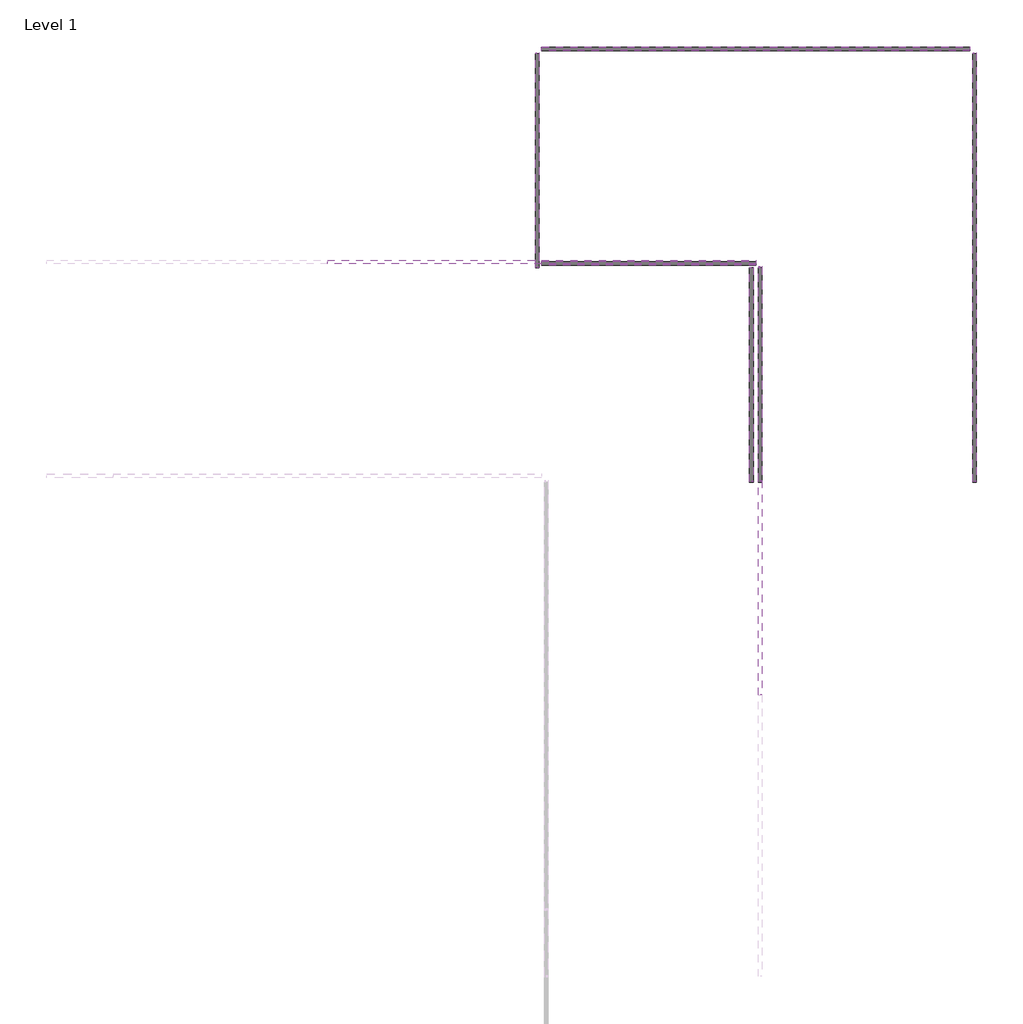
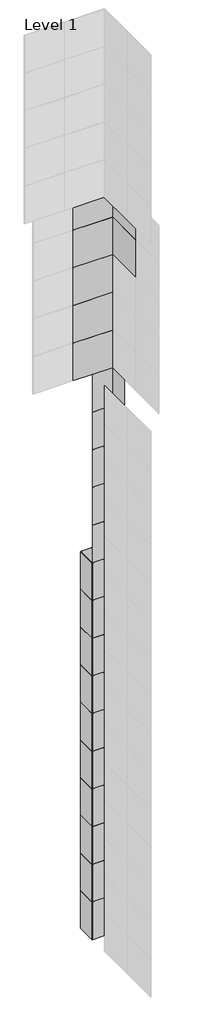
# One storey, part 15 of 15: 137 plates.
"""IFC4 building model written with IfcOpenShell, lengths in millimetres."""

from ifc_helpers import new_model, si_unit, origin, place, context, project, spatial, transform, mapped, element, save
from components import system_panel_glazed_9c75bc08, system_panel_glazed_0a0842ec, system_panel_glazed_aa64d645

model = new_model("IFC4")

# Units and contexts
model_context = context("Model", 3, world=origin())
ifc_project = project(units=[si_unit("LENGTHUNIT", "METRE", prefix="MILLI")], contexts=[model_context])

# Site, building, storey
site = spatial("IfcSite", under=ifc_project)
building = spatial("IfcBuilding", under=site)
storey = spatial("IfcBuildingStorey", under=building, Name="Level 1", Elevation=0.0)

# Plates
placement = place(None, origin())
system_panel_glazed_shape = system_panel_glazed_9c75bc08(model_context)
element("IfcPlate", 1, ObjectType="System Panel : Glazed", at=placement, inside=storey, context=model_context, shape_type="MappedRepresentation", body=[
    mapped(system_panel_glazed_shape, transform((51834.2903978, 9113.0904402, 0.0), x_axis=(0.0, 1.0, 0.0), y_axis=(-1.0, 0.0, 0.0), z_axis=(0.0, 0.0, 1.0))),
])
element("IfcPlate", 2, ObjectType="System Panel : Glazed", at=placement, inside=storey, context=model_context, shape_type="MappedRepresentation", body=[
    mapped(system_panel_glazed_shape, transform((51834.2903978, 9113.0904402, 3048.0), x_axis=(0.0, 1.0, 0.0), y_axis=(-1.0, 0.0, 0.0), z_axis=(0.0, 0.0, 1.0))),
])
element("IfcPlate", 3, ObjectType="System Panel : Glazed", at=placement, inside=storey, context=model_context, shape_type="MappedRepresentation", body=[
    mapped(system_panel_glazed_shape, transform((51834.2903978, 9113.0904402, 6096.0), x_axis=(0.0, 1.0, 0.0), y_axis=(-1.0, 0.0, 0.0), z_axis=(0.0, 0.0, 1.0))),
])
element("IfcPlate", 4, ObjectType="System Panel : Glazed", at=placement, inside=storey, context=model_context, shape_type="MappedRepresentation", body=[
    mapped(system_panel_glazed_shape, transform((51834.2903978, 9113.0904402, 9144.0), x_axis=(0.0, 1.0, 0.0), y_axis=(-1.0, 0.0, 0.0), z_axis=(0.0, 0.0, 1.0))),
])
element("IfcPlate", 5, ObjectType="System Panel : Glazed", at=placement, inside=storey, context=model_context, shape_type="MappedRepresentation", body=[
    mapped(system_panel_glazed_shape, transform((51834.2903978, 9113.0904402, 12192.0), x_axis=(0.0, 1.0, 0.0), y_axis=(-1.0, 0.0, 0.0), z_axis=(0.0, 0.0, 1.0))),
])
element("IfcPlate", 6, ObjectType="System Panel : Glazed", at=placement, inside=storey, context=model_context, shape_type="MappedRepresentation", body=[
    mapped(system_panel_glazed_shape, transform((51834.2903978, 9113.0904402, 15240.0), x_axis=(0.0, 1.0, 0.0), y_axis=(-1.0, 0.0, 0.0), z_axis=(0.0, 0.0, 1.0))),
])
element("IfcPlate", 7, ObjectType="System Panel : Glazed", at=placement, inside=storey, context=model_context, shape_type="MappedRepresentation", body=[
    mapped(system_panel_glazed_shape, transform((51834.2903978, 9113.0904402, 18288.0), x_axis=(0.0, 1.0, 0.0), y_axis=(-1.0, 0.0, 0.0), z_axis=(0.0, 0.0, 1.0))),
])
element("IfcPlate", 8, ObjectType="System Panel : Glazed", at=placement, inside=storey, context=model_context, shape_type="MappedRepresentation", body=[
    mapped(system_panel_glazed_shape, transform((51834.2903978, 9113.0904402, 21336.0), x_axis=(0.0, 1.0, 0.0), y_axis=(-1.0, 0.0, 0.0), z_axis=(0.0, 0.0, 1.0))),
])
element("IfcPlate", 9, ObjectType="System Panel : Glazed", at=placement, inside=storey, context=model_context, shape_type="MappedRepresentation", body=[
    mapped(system_panel_glazed_shape, transform((51834.2903978, 9113.0904402, 24384.0), x_axis=(0.0, 1.0, 0.0), y_axis=(-1.0, 0.0, 0.0), z_axis=(0.0, 0.0, 1.0))),
])
element("IfcPlate", 10, ObjectType="System Panel : Glazed", at=placement, inside=storey, context=model_context, shape_type="MappedRepresentation", body=[
    mapped(system_panel_glazed_shape, transform((51834.2903978, 9113.0904402, 27432.0), x_axis=(0.0, 1.0, 0.0), y_axis=(-1.0, 0.0, 0.0), z_axis=(0.0, 0.0, 1.0))),
])
element("IfcPlate", 11, ObjectType="System Panel : Glazed", at=placement, inside=storey, context=model_context, shape_type="MappedRepresentation", body=[
    mapped(system_panel_glazed_shape, transform((51834.2903978, 9113.0904402, 30480.0), x_axis=(0.0, 1.0, 0.0), y_axis=(-1.0, 0.0, 0.0), z_axis=(0.0, 0.0, 1.0))),
])
element("IfcPlate", 12, ObjectType="System Panel : Glazed", at=placement, inside=storey, context=model_context, shape_type="MappedRepresentation", body=[
    mapped(system_panel_glazed_shape, transform((51834.2903978, 9113.0904402, 33528.0), x_axis=(0.0, 1.0, 0.0), y_axis=(-1.0, 0.0, 0.0), z_axis=(0.0, 0.0, 1.0))),
])
element("IfcPlate", 13, ObjectType="System Panel : Glazed", at=placement, inside=storey, context=model_context, shape_type="MappedRepresentation", body=[
    mapped(system_panel_glazed_shape, transform((51834.2903978, 9113.0904402, 36576.0), x_axis=(0.0, 1.0, 0.0), y_axis=(-1.0, 0.0, 0.0), z_axis=(0.0, 0.0, 1.0))),
])
element("IfcPlate", 14, ObjectType="System Panel : Glazed", at=placement, inside=storey, context=model_context, shape_type="MappedRepresentation", body=[
    mapped(system_panel_glazed_shape, transform((51834.2903978, 9113.0904402, 39624.0), x_axis=(0.0, 1.0, 0.0), y_axis=(-1.0, 0.0, 0.0), z_axis=(0.0, 0.0, 1.0))),
])
element("IfcPlate", 15, ObjectType="System Panel : Glazed", at=placement, inside=storey, context=model_context, shape_type="MappedRepresentation", body=[
    mapped(system_panel_glazed_shape, transform((51834.2903978, 9113.0904402, 42672.0), x_axis=(0.0, 1.0, 0.0), y_axis=(-1.0, 0.0, 0.0), z_axis=(0.0, 0.0, 1.0))),
])
element("IfcPlate", 16, ObjectType="System Panel : Glazed", at=placement, inside=storey, context=model_context, shape_type="MappedRepresentation", body=[
    mapped(system_panel_glazed_shape, transform((51072.2903978, 9875.0904402, 0.0), x_axis=(-1.0, 0.0, 0.0), y_axis=(0.0, -1.0, 0.0), z_axis=(0.0, 0.0, 1.0))),
])
element("IfcPlate", 17, ObjectType="System Panel : Glazed", at=placement, inside=storey, context=model_context, shape_type="MappedRepresentation", body=[
    mapped(system_panel_glazed_shape, transform((51072.2903978, 9875.0904402, 3048.0), x_axis=(-1.0, 0.0, 0.0), y_axis=(0.0, -1.0, 0.0), z_axis=(0.0, 0.0, 1.0))),
])
element("IfcPlate", 18, ObjectType="System Panel : Glazed", at=placement, inside=storey, context=model_context, shape_type="MappedRepresentation", body=[
    mapped(system_panel_glazed_shape, transform((51072.2903978, 9875.0904402, 6096.0), x_axis=(-1.0, 0.0, 0.0), y_axis=(0.0, -1.0, 0.0), z_axis=(0.0, 0.0, 1.0))),
])
element("IfcPlate", 19, ObjectType="System Panel : Glazed", at=placement, inside=storey, context=model_context, shape_type="MappedRepresentation", body=[
    mapped(system_panel_glazed_shape, transform((51072.2903978, 9875.0904402, 9144.0), x_axis=(-1.0, 0.0, 0.0), y_axis=(0.0, -1.0, 0.0), z_axis=(0.0, 0.0, 1.0))),
])
element("IfcPlate", 20, ObjectType="System Panel : Glazed", at=placement, inside=storey, context=model_context, shape_type="MappedRepresentation", body=[
    mapped(system_panel_glazed_shape, transform((51072.2903978, 9875.0904402, 12192.0), x_axis=(-1.0, 0.0, 0.0), y_axis=(0.0, -1.0, 0.0), z_axis=(0.0, 0.0, 1.0))),
])
element("IfcPlate", 21, ObjectType="System Panel : Glazed", at=placement, inside=storey, context=model_context, shape_type="MappedRepresentation", body=[
    mapped(system_panel_glazed_shape, transform((51072.2903978, 9875.0904402, 15240.0), x_axis=(-1.0, 0.0, 0.0), y_axis=(0.0, -1.0, 0.0), z_axis=(0.0, 0.0, 1.0))),
])
element("IfcPlate", 22, ObjectType="System Panel : Glazed", at=placement, inside=storey, context=model_context, shape_type="MappedRepresentation", body=[
    mapped(system_panel_glazed_shape, transform((51072.2903978, 9875.0904402, 18288.0), x_axis=(-1.0, 0.0, 0.0), y_axis=(0.0, -1.0, 0.0), z_axis=(0.0, 0.0, 1.0))),
])
element("IfcPlate", 23, ObjectType="System Panel : Glazed", at=placement, inside=storey, context=model_context, shape_type="MappedRepresentation", body=[
    mapped(system_panel_glazed_shape, transform((51072.2903978, 9875.0904402, 21336.0), x_axis=(-1.0, 0.0, 0.0), y_axis=(0.0, -1.0, 0.0), z_axis=(0.0, 0.0, 1.0))),
])
element("IfcPlate", 24, ObjectType="System Panel : Glazed", at=placement, inside=storey, context=model_context, shape_type="MappedRepresentation", body=[
    mapped(system_panel_glazed_shape, transform((51072.2903978, 9875.0904402, 24384.0), x_axis=(-1.0, 0.0, 0.0), y_axis=(0.0, -1.0, 0.0), z_axis=(0.0, 0.0, 1.0))),
])
element("IfcPlate", 25, ObjectType="System Panel : Glazed", at=placement, inside=storey, context=model_context, shape_type="MappedRepresentation", body=[
    mapped(system_panel_glazed_shape, transform((51072.2903978, 9875.0904402, 27432.0), x_axis=(-1.0, 0.0, 0.0), y_axis=(0.0, -1.0, 0.0), z_axis=(0.0, 0.0, 1.0))),
])
element("IfcPlate", 26, ObjectType="System Panel : Glazed", at=placement, inside=storey, context=model_context, shape_type="MappedRepresentation", body=[
    mapped(system_panel_glazed_shape, transform((51072.2903978, 9875.0904402, 30480.0), x_axis=(-1.0, 0.0, 0.0), y_axis=(0.0, -1.0, 0.0), z_axis=(0.0, 0.0, 1.0))),
])
element("IfcPlate", 27, ObjectType="System Panel : Glazed", at=placement, inside=storey, context=model_context, shape_type="MappedRepresentation", body=[
    mapped(system_panel_glazed_shape, transform((51072.2903978, 9875.0904402, 33528.0), x_axis=(-1.0, 0.0, 0.0), y_axis=(0.0, -1.0, 0.0), z_axis=(0.0, 0.0, 1.0))),
])
element("IfcPlate", 28, ObjectType="System Panel : Glazed", at=placement, inside=storey, context=model_context, shape_type="MappedRepresentation", body=[
    mapped(system_panel_glazed_shape, transform((51072.2903978, 9875.0904402, 36576.0), x_axis=(-1.0, 0.0, 0.0), y_axis=(0.0, -1.0, 0.0), z_axis=(0.0, 0.0, 1.0))),
])
element("IfcPlate", 29, ObjectType="System Panel : Glazed", at=placement, inside=storey, context=model_context, shape_type="MappedRepresentation", body=[
    mapped(system_panel_glazed_shape, transform((51072.2903978, 9875.0904402, 39624.0), x_axis=(-1.0, 0.0, 0.0), y_axis=(0.0, -1.0, 0.0), z_axis=(0.0, 0.0, 1.0))),
])
element("IfcPlate", 30, ObjectType="System Panel : Glazed", at=placement, inside=storey, context=model_context, shape_type="MappedRepresentation", body=[
    mapped(system_panel_glazed_shape, transform((51072.2903978, 9875.0904402, 42672.0), x_axis=(-1.0, 0.0, 0.0), y_axis=(0.0, -1.0, 0.0), z_axis=(0.0, 0.0, 1.0))),
])
element("IfcPlate", 31, ObjectType="System Panel : Glazed", at=placement, inside=storey, context=model_context, shape_type="MappedRepresentation", body=[
    mapped(system_panel_glazed_shape, transform((51072.2903978, 9875.0904402, 0.0), x_axis=(-1.0, 0.0, 0.0), y_axis=(0.0, -1.0, 0.0), z_axis=(0.0, 0.0, 1.0))),
])
element("IfcPlate", 32, ObjectType="System Panel : Glazed", at=placement, inside=storey, context=model_context, shape_type="MappedRepresentation", body=[
    mapped(system_panel_glazed_shape, transform((51072.2903978, 9875.0904402, 3048.0), x_axis=(-1.0, 0.0, 0.0), y_axis=(0.0, -1.0, 0.0), z_axis=(0.0, 0.0, 1.0))),
])
element("IfcPlate", 33, ObjectType="System Panel : Glazed", at=placement, inside=storey, context=model_context, shape_type="MappedRepresentation", body=[
    mapped(system_panel_glazed_shape, transform((51072.2903978, 9875.0904402, 6096.0), x_axis=(-1.0, 0.0, 0.0), y_axis=(0.0, -1.0, 0.0), z_axis=(0.0, 0.0, 1.0))),
])
element("IfcPlate", 34, ObjectType="System Panel : Glazed", at=placement, inside=storey, context=model_context, shape_type="MappedRepresentation", body=[
    mapped(system_panel_glazed_shape, transform((51072.2903978, 9875.0904402, 9144.0), x_axis=(-1.0, 0.0, 0.0), y_axis=(0.0, -1.0, 0.0), z_axis=(0.0, 0.0, 1.0))),
])
element("IfcPlate", 35, ObjectType="System Panel : Glazed", at=placement, inside=storey, context=model_context, shape_type="MappedRepresentation", body=[
    mapped(system_panel_glazed_shape, transform((51072.2903978, 9875.0904402, 12192.0), x_axis=(-1.0, 0.0, 0.0), y_axis=(0.0, -1.0, 0.0), z_axis=(0.0, 0.0, 1.0))),
])
element("IfcPlate", 36, ObjectType="System Panel : Glazed", at=placement, inside=storey, context=model_context, shape_type="MappedRepresentation", body=[
    mapped(system_panel_glazed_shape, transform((51072.2903978, 9875.0904402, 15240.0), x_axis=(-1.0, 0.0, 0.0), y_axis=(0.0, -1.0, 0.0), z_axis=(0.0, 0.0, 1.0))),
])
element("IfcPlate", 37, ObjectType="System Panel : Glazed", at=placement, inside=storey, context=model_context, shape_type="MappedRepresentation", body=[
    mapped(system_panel_glazed_shape, transform((51072.2903978, 9875.0904402, 18288.0), x_axis=(-1.0, 0.0, 0.0), y_axis=(0.0, -1.0, 0.0), z_axis=(0.0, 0.0, 1.0))),
])
element("IfcPlate", 38, ObjectType="System Panel : Glazed", at=placement, inside=storey, context=model_context, shape_type="MappedRepresentation", body=[
    mapped(system_panel_glazed_shape, transform((51072.2903978, 9875.0904402, 21336.0), x_axis=(-1.0, 0.0, 0.0), y_axis=(0.0, -1.0, 0.0), z_axis=(0.0, 0.0, 1.0))),
])
element("IfcPlate", 39, ObjectType="System Panel : Glazed", at=placement, inside=storey, context=model_context, shape_type="MappedRepresentation", body=[
    mapped(system_panel_glazed_shape, transform((51072.2903978, 9875.0904402, 24384.0), x_axis=(-1.0, 0.0, 0.0), y_axis=(0.0, -1.0, 0.0), z_axis=(0.0, 0.0, 1.0))),
])
element("IfcPlate", 40, ObjectType="System Panel : Glazed", at=placement, inside=storey, context=model_context, shape_type="MappedRepresentation", body=[
    mapped(system_panel_glazed_shape, transform((51072.2903978, 9875.0904402, 27432.0), x_axis=(-1.0, 0.0, 0.0), y_axis=(0.0, -1.0, 0.0), z_axis=(0.0, 0.0, 1.0))),
])
element("IfcPlate", 41, ObjectType="System Panel : Glazed", at=placement, inside=storey, context=model_context, shape_type="MappedRepresentation", body=[
    mapped(system_panel_glazed_shape, transform((51072.2903978, 9875.0904402, 30480.0), x_axis=(-1.0, 0.0, 0.0), y_axis=(0.0, -1.0, 0.0), z_axis=(0.0, 0.0, 1.0))),
])
element("IfcPlate", 42, ObjectType="System Panel : Glazed", at=placement, inside=storey, context=model_context, shape_type="MappedRepresentation", body=[
    mapped(system_panel_glazed_shape, transform((51072.2903978, 9875.0904402, 33528.0), x_axis=(-1.0, 0.0, 0.0), y_axis=(0.0, -1.0, 0.0), z_axis=(0.0, 0.0, 1.0))),
])
element("IfcPlate", 43, ObjectType="System Panel : Glazed", at=placement, inside=storey, context=model_context, shape_type="MappedRepresentation", body=[
    mapped(system_panel_glazed_shape, transform((51072.2903978, 9875.0904402, 36576.0), x_axis=(-1.0, 0.0, 0.0), y_axis=(0.0, -1.0, 0.0), z_axis=(0.0, 0.0, 1.0))),
])
element("IfcPlate", 44, ObjectType="System Panel : Glazed", at=placement, inside=storey, context=model_context, shape_type="MappedRepresentation", body=[
    mapped(system_panel_glazed_shape, transform((51072.2903978, 9875.0904402, 39624.0), x_axis=(-1.0, 0.0, 0.0), y_axis=(0.0, -1.0, 0.0), z_axis=(0.0, 0.0, 1.0))),
])
element("IfcPlate", 45, ObjectType="System Panel : Glazed", at=placement, inside=storey, context=model_context, shape_type="MappedRepresentation", body=[
    mapped(system_panel_glazed_shape, transform((51072.2903978, 9875.0904402, 42672.0), x_axis=(-1.0, 0.0, 0.0), y_axis=(0.0, -1.0, 0.0), z_axis=(0.0, 0.0, 1.0))),
])
element("IfcPlate", 46, ObjectType="System Panel : Glazed", at=placement, inside=storey, context=model_context, shape_type="MappedRepresentation", body=[
    mapped(system_panel_glazed_shape, transform((51072.2903978, 9875.0904402, 0.0), x_axis=(-1.0, 0.0, 0.0), y_axis=(0.0, -1.0, 0.0), z_axis=(0.0, 0.0, 1.0))),
])
element("IfcPlate", 47, ObjectType="System Panel : Glazed", at=placement, inside=storey, context=model_context, shape_type="MappedRepresentation", body=[
    mapped(system_panel_glazed_shape, transform((51072.2903978, 9875.0904402, 3048.0), x_axis=(-1.0, 0.0, 0.0), y_axis=(0.0, -1.0, 0.0), z_axis=(0.0, 0.0, 1.0))),
])
element("IfcPlate", 48, ObjectType="System Panel : Glazed", at=placement, inside=storey, context=model_context, shape_type="MappedRepresentation", body=[
    mapped(system_panel_glazed_shape, transform((51072.2903978, 9875.0904402, 6096.0), x_axis=(-1.0, 0.0, 0.0), y_axis=(0.0, -1.0, 0.0), z_axis=(0.0, 0.0, 1.0))),
])
element("IfcPlate", 49, ObjectType="System Panel : Glazed", at=placement, inside=storey, context=model_context, shape_type="MappedRepresentation", body=[
    mapped(system_panel_glazed_shape, transform((51072.2903978, 9875.0904402, 9144.0), x_axis=(-1.0, 0.0, 0.0), y_axis=(0.0, -1.0, 0.0), z_axis=(0.0, 0.0, 1.0))),
])
element("IfcPlate", 50, ObjectType="System Panel : Glazed", at=placement, inside=storey, context=model_context, shape_type="MappedRepresentation", body=[
    mapped(system_panel_glazed_shape, transform((51072.2903978, 9875.0904402, 12192.0), x_axis=(-1.0, 0.0, 0.0), y_axis=(0.0, -1.0, 0.0), z_axis=(0.0, 0.0, 1.0))),
])
element("IfcPlate", 51, ObjectType="System Panel : Glazed", at=placement, inside=storey, context=model_context, shape_type="MappedRepresentation", body=[
    mapped(system_panel_glazed_shape, transform((51072.2903978, 9875.0904402, 15240.0), x_axis=(-1.0, 0.0, 0.0), y_axis=(0.0, -1.0, 0.0), z_axis=(0.0, 0.0, 1.0))),
])
element("IfcPlate", 52, ObjectType="System Panel : Glazed", at=placement, inside=storey, context=model_context, shape_type="MappedRepresentation", body=[
    mapped(system_panel_glazed_shape, transform((51072.2903978, 9875.0904402, 18288.0), x_axis=(-1.0, 0.0, 0.0), y_axis=(0.0, -1.0, 0.0), z_axis=(0.0, 0.0, 1.0))),
])
element("IfcPlate", 53, ObjectType="System Panel : Glazed", at=placement, inside=storey, context=model_context, shape_type="MappedRepresentation", body=[
    mapped(system_panel_glazed_shape, transform((51072.2903978, 9875.0904402, 21336.0), x_axis=(-1.0, 0.0, 0.0), y_axis=(0.0, -1.0, 0.0), z_axis=(0.0, 0.0, 1.0))),
])
element("IfcPlate", 54, ObjectType="System Panel : Glazed", at=placement, inside=storey, context=model_context, shape_type="MappedRepresentation", body=[
    mapped(system_panel_glazed_shape, transform((51072.2903978, 9875.0904402, 24384.0), x_axis=(-1.0, 0.0, 0.0), y_axis=(0.0, -1.0, 0.0), z_axis=(0.0, 0.0, 1.0))),
])
element("IfcPlate", 55, ObjectType="System Panel : Glazed", at=placement, inside=storey, context=model_context, shape_type="MappedRepresentation", body=[
    mapped(system_panel_glazed_shape, transform((51072.2903978, 9875.0904402, 27432.0), x_axis=(-1.0, 0.0, 0.0), y_axis=(0.0, -1.0, 0.0), z_axis=(0.0, 0.0, 1.0))),
])
element("IfcPlate", 56, ObjectType="System Panel : Glazed", at=placement, inside=storey, context=model_context, shape_type="MappedRepresentation", body=[
    mapped(system_panel_glazed_shape, transform((51072.2903978, 9875.0904402, 30480.0), x_axis=(-1.0, 0.0, 0.0), y_axis=(0.0, -1.0, 0.0), z_axis=(0.0, 0.0, 1.0))),
])
element("IfcPlate", 57, ObjectType="System Panel : Glazed", at=placement, inside=storey, context=model_context, shape_type="MappedRepresentation", body=[
    mapped(system_panel_glazed_shape, transform((51072.2903978, 9875.0904402, 33528.0), x_axis=(-1.0, 0.0, 0.0), y_axis=(0.0, -1.0, 0.0), z_axis=(0.0, 0.0, 1.0))),
])
element("IfcPlate", 58, ObjectType="System Panel : Glazed", at=placement, inside=storey, context=model_context, shape_type="MappedRepresentation", body=[
    mapped(system_panel_glazed_shape, transform((51072.2903978, 9875.0904402, 36576.0), x_axis=(-1.0, 0.0, 0.0), y_axis=(0.0, -1.0, 0.0), z_axis=(0.0, 0.0, 1.0))),
])
element("IfcPlate", 59, ObjectType="System Panel : Glazed", at=placement, inside=storey, context=model_context, shape_type="MappedRepresentation", body=[
    mapped(system_panel_glazed_shape, transform((51072.2903978, 9875.0904402, 39624.0), x_axis=(-1.0, 0.0, 0.0), y_axis=(0.0, -1.0, 0.0), z_axis=(0.0, 0.0, 1.0))),
])
element("IfcPlate", 60, ObjectType="System Panel : Glazed", at=placement, inside=storey, context=model_context, shape_type="MappedRepresentation", body=[
    mapped(system_panel_glazed_shape, transform((51072.2903978, 9875.0904402, 42672.0), x_axis=(-1.0, 0.0, 0.0), y_axis=(0.0, -1.0, 0.0), z_axis=(0.0, 0.0, 1.0))),
])
element("IfcPlate", 61, ObjectType="System Panel : Glazed", at=placement, inside=storey, context=model_context, shape_type="MappedRepresentation", body=[
    mapped(system_panel_glazed_shape, transform((51834.2903978, 9113.0904402, 0.0), x_axis=(0.0, -1.0, 0.0), y_axis=(1.0, 0.0, 0.0), z_axis=(0.0, 0.0, 1.0))),
])
element("IfcPlate", 62, ObjectType="System Panel : Glazed", at=placement, inside=storey, context=model_context, shape_type="MappedRepresentation", body=[
    mapped(system_panel_glazed_shape, transform((51834.2903978, 9113.0904402, 3048.0), x_axis=(0.0, -1.0, 0.0), y_axis=(1.0, 0.0, 0.0), z_axis=(0.0, 0.0, 1.0))),
])
element("IfcPlate", 63, ObjectType="System Panel : Glazed", at=placement, inside=storey, context=model_context, shape_type="MappedRepresentation", body=[
    mapped(system_panel_glazed_shape, transform((51834.2903978, 9113.0904402, 6096.0), x_axis=(0.0, -1.0, 0.0), y_axis=(1.0, 0.0, 0.0), z_axis=(0.0, 0.0, 1.0))),
])
element("IfcPlate", 64, ObjectType="System Panel : Glazed", at=placement, inside=storey, context=model_context, shape_type="MappedRepresentation", body=[
    mapped(system_panel_glazed_shape, transform((51834.2903978, 9113.0904402, 9144.0), x_axis=(0.0, -1.0, 0.0), y_axis=(1.0, 0.0, 0.0), z_axis=(0.0, 0.0, 1.0))),
])
element("IfcPlate", 65, ObjectType="System Panel : Glazed", at=placement, inside=storey, context=model_context, shape_type="MappedRepresentation", body=[
    mapped(system_panel_glazed_shape, transform((51834.2903978, 9113.0904402, 12192.0), x_axis=(0.0, -1.0, 0.0), y_axis=(1.0, 0.0, 0.0), z_axis=(0.0, 0.0, 1.0))),
])
element("IfcPlate", 66, ObjectType="System Panel : Glazed", at=placement, inside=storey, context=model_context, shape_type="MappedRepresentation", body=[
    mapped(system_panel_glazed_shape, transform((51834.2903978, 9113.0904402, 15240.0), x_axis=(0.0, -1.0, 0.0), y_axis=(1.0, 0.0, 0.0), z_axis=(0.0, 0.0, 1.0))),
])
element("IfcPlate", 67, ObjectType="System Panel : Glazed", at=placement, inside=storey, context=model_context, shape_type="MappedRepresentation", body=[
    mapped(system_panel_glazed_shape, transform((51834.2903978, 9113.0904402, 18288.0), x_axis=(0.0, -1.0, 0.0), y_axis=(1.0, 0.0, 0.0), z_axis=(0.0, 0.0, 1.0))),
])
element("IfcPlate", 68, ObjectType="System Panel : Glazed", at=placement, inside=storey, context=model_context, shape_type="MappedRepresentation", body=[
    mapped(system_panel_glazed_shape, transform((51834.2903978, 9113.0904402, 21336.0), x_axis=(0.0, -1.0, 0.0), y_axis=(1.0, 0.0, 0.0), z_axis=(0.0, 0.0, 1.0))),
])
element("IfcPlate", 69, ObjectType="System Panel : Glazed", at=placement, inside=storey, context=model_context, shape_type="MappedRepresentation", body=[
    mapped(system_panel_glazed_shape, transform((51834.2903978, 9113.0904402, 24384.0), x_axis=(0.0, -1.0, 0.0), y_axis=(1.0, 0.0, 0.0), z_axis=(0.0, 0.0, 1.0))),
])
element("IfcPlate", 70, ObjectType="System Panel : Glazed", at=placement, inside=storey, context=model_context, shape_type="MappedRepresentation", body=[
    mapped(system_panel_glazed_shape, transform((51834.2903978, 9113.0904402, 27432.0), x_axis=(0.0, -1.0, 0.0), y_axis=(1.0, 0.0, 0.0), z_axis=(0.0, 0.0, 1.0))),
])
element("IfcPlate", 71, ObjectType="System Panel : Glazed", at=placement, inside=storey, context=model_context, shape_type="MappedRepresentation", body=[
    mapped(system_panel_glazed_shape, transform((50310.2903978, 10637.0904402, 0.0), x_axis=(0.0, -1.0, 0.0), y_axis=(1.0, 0.0, 0.0), z_axis=(0.0, 0.0, 1.0))),
])
element("IfcPlate", 72, ObjectType="System Panel : Glazed", at=placement, inside=storey, context=model_context, shape_type="MappedRepresentation", body=[
    mapped(system_panel_glazed_shape, transform((50310.2903978, 10637.0904402, 3048.0), x_axis=(0.0, -1.0, 0.0), y_axis=(1.0, 0.0, 0.0), z_axis=(0.0, 0.0, 1.0))),
])
element("IfcPlate", 73, ObjectType="System Panel : Glazed", at=placement, inside=storey, context=model_context, shape_type="MappedRepresentation", body=[
    mapped(system_panel_glazed_shape, transform((50310.2903978, 10637.0904402, 6096.0), x_axis=(0.0, -1.0, 0.0), y_axis=(1.0, 0.0, 0.0), z_axis=(0.0, 0.0, 1.0))),
])
element("IfcPlate", 74, ObjectType="System Panel : Glazed", at=placement, inside=storey, context=model_context, shape_type="MappedRepresentation", body=[
    mapped(system_panel_glazed_shape, transform((50310.2903978, 10637.0904402, 9144.0), x_axis=(0.0, -1.0, 0.0), y_axis=(1.0, 0.0, 0.0), z_axis=(0.0, 0.0, 1.0))),
])
element("IfcPlate", 75, ObjectType="System Panel : Glazed", at=placement, inside=storey, context=model_context, shape_type="MappedRepresentation", body=[
    mapped(system_panel_glazed_shape, transform((50310.2903978, 10637.0904402, 12192.0), x_axis=(0.0, -1.0, 0.0), y_axis=(1.0, 0.0, 0.0), z_axis=(0.0, 0.0, 1.0))),
])
element("IfcPlate", 76, ObjectType="System Panel : Glazed", at=placement, inside=storey, context=model_context, shape_type="MappedRepresentation", body=[
    mapped(system_panel_glazed_shape, transform((50310.2903978, 10637.0904402, 15240.0), x_axis=(0.0, -1.0, 0.0), y_axis=(1.0, 0.0, 0.0), z_axis=(0.0, 0.0, 1.0))),
])
element("IfcPlate", 77, ObjectType="System Panel : Glazed", at=placement, inside=storey, context=model_context, shape_type="MappedRepresentation", body=[
    mapped(system_panel_glazed_shape, transform((50310.2903978, 10637.0904402, 18288.0), x_axis=(0.0, -1.0, 0.0), y_axis=(1.0, 0.0, 0.0), z_axis=(0.0, 0.0, 1.0))),
])
element("IfcPlate", 78, ObjectType="System Panel : Glazed", at=placement, inside=storey, context=model_context, shape_type="MappedRepresentation", body=[
    mapped(system_panel_glazed_shape, transform((50310.2903978, 10637.0904402, 21336.0), x_axis=(0.0, -1.0, 0.0), y_axis=(1.0, 0.0, 0.0), z_axis=(0.0, 0.0, 1.0))),
])
element("IfcPlate", 79, ObjectType="System Panel : Glazed", at=placement, inside=storey, context=model_context, shape_type="MappedRepresentation", body=[
    mapped(system_panel_glazed_shape, transform((50310.2903978, 10637.0904402, 24384.0), x_axis=(0.0, -1.0, 0.0), y_axis=(1.0, 0.0, 0.0), z_axis=(0.0, 0.0, 1.0))),
])
element("IfcPlate", 80, ObjectType="System Panel : Glazed", at=placement, inside=storey, context=model_context, shape_type="MappedRepresentation", body=[
    mapped(system_panel_glazed_shape, transform((50310.2903978, 10637.0904402, 27432.0), x_axis=(0.0, -1.0, 0.0), y_axis=(1.0, 0.0, 0.0), z_axis=(0.0, 0.0, 1.0))),
])
system_panel_glazed_2_shape = system_panel_glazed_0a0842ec(model_context)
element("IfcPlate", 81, ObjectType="System Panel : Glazed", at=placement, inside=storey, context=model_context, shape_type="MappedRepresentation", body=[
    mapped(system_panel_glazed_2_shape, transform((50310.2903978, 9875.0904402, 45720.0), x_axis=(-1.0, 0.0, 0.0), y_axis=(0.0, -1.0, 0.0), z_axis=(0.0, 0.0, 1.0))),
])
element("IfcPlate", 82, ObjectType="System Panel : Glazed", at=placement, inside=storey, context=model_context, shape_type="MappedRepresentation", body=[
    mapped(system_panel_glazed_2_shape, transform((50310.2903978, 9875.0904402, 45720.0), x_axis=(-1.0, 0.0, 0.0), y_axis=(0.0, -1.0, 0.0), z_axis=(0.0, 0.0, 1.0))),
])
element("IfcPlate", 83, ObjectType="System Panel : Glazed", at=placement, inside=storey, context=model_context, shape_type="MappedRepresentation", body=[
    mapped(system_panel_glazed_2_shape, transform((50310.2903978, 9875.0904402, 45720.0), x_axis=(-1.0, 0.0, 0.0), y_axis=(0.0, -1.0, 0.0), z_axis=(0.0, 0.0, 1.0))),
])
system_panel_glazed_3_shape = system_panel_glazed_aa64d645(model_context)
element("IfcPlate", 84, ObjectType="System Panel : Glazed", at=placement, inside=storey, context=model_context, shape_type="MappedRepresentation", body=[
    mapped(system_panel_glazed_3_shape, transform((51834.2903978, 8351.0904402, 54864.0), x_axis=(0.0, 1.0, 0.0), y_axis=(-1.0, 0.0, 0.0), z_axis=(0.0, 0.0, 1.0))),
])
element("IfcPlate", 85, ObjectType="System Panel : Glazed", at=placement, inside=storey, context=model_context, shape_type="MappedRepresentation", body=[
    mapped(system_panel_glazed_3_shape, transform((51834.2903978, 8351.0904402, 57912.0), x_axis=(0.0, 1.0, 0.0), y_axis=(-1.0, 0.0, 0.0), z_axis=(0.0, 0.0, 1.0))),
])
element("IfcPlate", 86, ObjectType="System Panel : Glazed", at=placement, inside=storey, context=model_context, shape_type="MappedRepresentation", body=[
    mapped(system_panel_glazed_3_shape, transform((50310.2903978, 9875.0904402, 48768.0), x_axis=(-1.0, 0.0, 0.0), y_axis=(0.0, -1.0, 0.0), z_axis=(0.0, 0.0, 1.0))),
])
element("IfcPlate", 87, ObjectType="System Panel : Glazed", at=placement, inside=storey, context=model_context, shape_type="MappedRepresentation", body=[
    mapped(system_panel_glazed_3_shape, transform((50310.2903978, 9875.0904402, 51816.0), x_axis=(-1.0, 0.0, 0.0), y_axis=(0.0, -1.0, 0.0), z_axis=(0.0, 0.0, 1.0))),
])
element("IfcPlate", 88, ObjectType="System Panel : Glazed", at=placement, inside=storey, context=model_context, shape_type="MappedRepresentation", body=[
    mapped(system_panel_glazed_3_shape, transform((50310.2903978, 9875.0904402, 54864.0), x_axis=(-1.0, 0.0, 0.0), y_axis=(0.0, -1.0, 0.0), z_axis=(0.0, 0.0, 1.0))),
])
element("IfcPlate", 89, ObjectType="System Panel : Glazed", at=placement, inside=storey, context=model_context, shape_type="MappedRepresentation", body=[
    mapped(system_panel_glazed_3_shape, transform((50310.2903978, 9875.0904402, 57912.0), x_axis=(-1.0, 0.0, 0.0), y_axis=(0.0, -1.0, 0.0), z_axis=(0.0, 0.0, 1.0))),
])
element("IfcPlate", 90, ObjectType="System Panel : Glazed", at=placement, inside=storey, context=model_context, shape_type="MappedRepresentation", body=[
    mapped(system_panel_glazed_3_shape, transform((50310.2903978, 9875.0904402, 48768.0), x_axis=(-1.0, 0.0, 0.0), y_axis=(0.0, -1.0, 0.0), z_axis=(0.0, 0.0, 1.0))),
])
element("IfcPlate", 91, ObjectType="System Panel : Glazed", at=placement, inside=storey, context=model_context, shape_type="MappedRepresentation", body=[
    mapped(system_panel_glazed_3_shape, transform((50310.2903978, 9875.0904402, 51816.0), x_axis=(-1.0, 0.0, 0.0), y_axis=(0.0, -1.0, 0.0), z_axis=(0.0, 0.0, 1.0))),
])
element("IfcPlate", 92, ObjectType="System Panel : Glazed", at=placement, inside=storey, context=model_context, shape_type="MappedRepresentation", body=[
    mapped(system_panel_glazed_3_shape, transform((50310.2903978, 9875.0904402, 54864.0), x_axis=(-1.0, 0.0, 0.0), y_axis=(0.0, -1.0, 0.0), z_axis=(0.0, 0.0, 1.0))),
])
element("IfcPlate", 93, ObjectType="System Panel : Glazed", at=placement, inside=storey, context=model_context, shape_type="MappedRepresentation", body=[
    mapped(system_panel_glazed_3_shape, transform((50310.2903978, 9875.0904402, 57912.0), x_axis=(-1.0, 0.0, 0.0), y_axis=(0.0, -1.0, 0.0), z_axis=(0.0, 0.0, 1.0))),
])
element("IfcPlate", 94, ObjectType="System Panel : Glazed", at=placement, inside=storey, context=model_context, shape_type="MappedRepresentation", body=[
    mapped(system_panel_glazed_3_shape, transform((50310.2903978, 9875.0904402, 48768.0), x_axis=(-1.0, 0.0, 0.0), y_axis=(0.0, -1.0, 0.0), z_axis=(0.0, 0.0, 1.0))),
])
element("IfcPlate", 95, ObjectType="System Panel : Glazed", at=placement, inside=storey, context=model_context, shape_type="MappedRepresentation", body=[
    mapped(system_panel_glazed_3_shape, transform((50310.2903978, 9875.0904402, 51816.0), x_axis=(-1.0, 0.0, 0.0), y_axis=(0.0, -1.0, 0.0), z_axis=(0.0, 0.0, 1.0))),
])
element("IfcPlate", 96, ObjectType="System Panel : Glazed", at=placement, inside=storey, context=model_context, shape_type="MappedRepresentation", body=[
    mapped(system_panel_glazed_3_shape, transform((50310.2903978, 9875.0904402, 54864.0), x_axis=(-1.0, 0.0, 0.0), y_axis=(0.0, -1.0, 0.0), z_axis=(0.0, 0.0, 1.0))),
])
element("IfcPlate", 97, ObjectType="System Panel : Glazed", at=placement, inside=storey, context=model_context, shape_type="MappedRepresentation", body=[
    mapped(system_panel_glazed_3_shape, transform((50310.2903978, 9875.0904402, 57912.0), x_axis=(-1.0, 0.0, 0.0), y_axis=(0.0, -1.0, 0.0), z_axis=(0.0, 0.0, 1.0))),
])
element("IfcPlate", 98, ObjectType="System Panel : Glazed", at=placement, inside=storey, context=model_context, shape_type="MappedRepresentation", body=[
    mapped(system_panel_glazed_3_shape, transform((51834.2903978, 11399.0904402, 0.0), x_axis=(-1.0, 0.0, 0.0), y_axis=(0.0, -1.0, 0.0), z_axis=(0.0, 0.0, 1.0))),
])
element("IfcPlate", 99, ObjectType="System Panel : Glazed", at=placement, inside=storey, context=model_context, shape_type="MappedRepresentation", body=[
    mapped(system_panel_glazed_3_shape, transform((51834.2903978, 11399.0904402, 3048.0), x_axis=(-1.0, 0.0, 0.0), y_axis=(0.0, -1.0, 0.0), z_axis=(0.0, 0.0, 1.0))),
])
element("IfcPlate", 100, ObjectType="System Panel : Glazed", at=placement, inside=storey, context=model_context, shape_type="MappedRepresentation", body=[
    mapped(system_panel_glazed_3_shape, transform((51834.2903978, 11399.0904402, 6096.0), x_axis=(-1.0, 0.0, 0.0), y_axis=(0.0, -1.0, 0.0), z_axis=(0.0, 0.0, 1.0))),
])
element("IfcPlate", 101, ObjectType="System Panel : Glazed", at=placement, inside=storey, context=model_context, shape_type="MappedRepresentation", body=[
    mapped(system_panel_glazed_3_shape, transform((51834.2903978, 11399.0904402, 9144.0), x_axis=(-1.0, 0.0, 0.0), y_axis=(0.0, -1.0, 0.0), z_axis=(0.0, 0.0, 1.0))),
])
element("IfcPlate", 102, ObjectType="System Panel : Glazed", at=placement, inside=storey, context=model_context, shape_type="MappedRepresentation", body=[
    mapped(system_panel_glazed_3_shape, transform((51834.2903978, 11399.0904402, 12192.0), x_axis=(-1.0, 0.0, 0.0), y_axis=(0.0, -1.0, 0.0), z_axis=(0.0, 0.0, 1.0))),
])
element("IfcPlate", 103, ObjectType="System Panel : Glazed", at=placement, inside=storey, context=model_context, shape_type="MappedRepresentation", body=[
    mapped(system_panel_glazed_3_shape, transform((51834.2903978, 11399.0904402, 15240.0), x_axis=(-1.0, 0.0, 0.0), y_axis=(0.0, -1.0, 0.0), z_axis=(0.0, 0.0, 1.0))),
])
element("IfcPlate", 104, ObjectType="System Panel : Glazed", at=placement, inside=storey, context=model_context, shape_type="MappedRepresentation", body=[
    mapped(system_panel_glazed_3_shape, transform((51834.2903978, 11399.0904402, 18288.0), x_axis=(-1.0, 0.0, 0.0), y_axis=(0.0, -1.0, 0.0), z_axis=(0.0, 0.0, 1.0))),
])
element("IfcPlate", 105, ObjectType="System Panel : Glazed", at=placement, inside=storey, context=model_context, shape_type="MappedRepresentation", body=[
    mapped(system_panel_glazed_3_shape, transform((51834.2903978, 11399.0904402, 21336.0), x_axis=(-1.0, 0.0, 0.0), y_axis=(0.0, -1.0, 0.0), z_axis=(0.0, 0.0, 1.0))),
])
element("IfcPlate", 106, ObjectType="System Panel : Glazed", at=placement, inside=storey, context=model_context, shape_type="MappedRepresentation", body=[
    mapped(system_panel_glazed_3_shape, transform((51834.2903978, 11399.0904402, 24384.0), x_axis=(-1.0, 0.0, 0.0), y_axis=(0.0, -1.0, 0.0), z_axis=(0.0, 0.0, 1.0))),
])
element("IfcPlate", 107, ObjectType="System Panel : Glazed", at=placement, inside=storey, context=model_context, shape_type="MappedRepresentation", body=[
    mapped(system_panel_glazed_3_shape, transform((51834.2903978, 11399.0904402, 27432.0), x_axis=(-1.0, 0.0, 0.0), y_axis=(0.0, -1.0, 0.0), z_axis=(0.0, 0.0, 1.0))),
])
element("IfcPlate", 108, ObjectType="System Panel : Glazed", at=placement, inside=storey, context=model_context, shape_type="MappedRepresentation", body=[
    mapped(system_panel_glazed_3_shape, transform((51834.2903978, 11399.0904402, 0.0), x_axis=(-1.0, 0.0, 0.0), y_axis=(0.0, -1.0, 0.0), z_axis=(0.0, 0.0, 1.0))),
])
element("IfcPlate", 109, ObjectType="System Panel : Glazed", at=placement, inside=storey, context=model_context, shape_type="MappedRepresentation", body=[
    mapped(system_panel_glazed_3_shape, transform((51834.2903978, 11399.0904402, 3048.0), x_axis=(-1.0, 0.0, 0.0), y_axis=(0.0, -1.0, 0.0), z_axis=(0.0, 0.0, 1.0))),
])
element("IfcPlate", 110, ObjectType="System Panel : Glazed", at=placement, inside=storey, context=model_context, shape_type="MappedRepresentation", body=[
    mapped(system_panel_glazed_3_shape, transform((51834.2903978, 11399.0904402, 6096.0), x_axis=(-1.0, 0.0, 0.0), y_axis=(0.0, -1.0, 0.0), z_axis=(0.0, 0.0, 1.0))),
])
element("IfcPlate", 111, ObjectType="System Panel : Glazed", at=placement, inside=storey, context=model_context, shape_type="MappedRepresentation", body=[
    mapped(system_panel_glazed_3_shape, transform((51834.2903978, 11399.0904402, 9144.0), x_axis=(-1.0, 0.0, 0.0), y_axis=(0.0, -1.0, 0.0), z_axis=(0.0, 0.0, 1.0))),
])
element("IfcPlate", 112, ObjectType="System Panel : Glazed", at=placement, inside=storey, context=model_context, shape_type="MappedRepresentation", body=[
    mapped(system_panel_glazed_3_shape, transform((51834.2903978, 11399.0904402, 12192.0), x_axis=(-1.0, 0.0, 0.0), y_axis=(0.0, -1.0, 0.0), z_axis=(0.0, 0.0, 1.0))),
])
element("IfcPlate", 113, ObjectType="System Panel : Glazed", at=placement, inside=storey, context=model_context, shape_type="MappedRepresentation", body=[
    mapped(system_panel_glazed_3_shape, transform((51834.2903978, 11399.0904402, 15240.0), x_axis=(-1.0, 0.0, 0.0), y_axis=(0.0, -1.0, 0.0), z_axis=(0.0, 0.0, 1.0))),
])
element("IfcPlate", 114, ObjectType="System Panel : Glazed", at=placement, inside=storey, context=model_context, shape_type="MappedRepresentation", body=[
    mapped(system_panel_glazed_3_shape, transform((51834.2903978, 11399.0904402, 18288.0), x_axis=(-1.0, 0.0, 0.0), y_axis=(0.0, -1.0, 0.0), z_axis=(0.0, 0.0, 1.0))),
])
element("IfcPlate", 115, ObjectType="System Panel : Glazed", at=placement, inside=storey, context=model_context, shape_type="MappedRepresentation", body=[
    mapped(system_panel_glazed_3_shape, transform((51834.2903978, 11399.0904402, 21336.0), x_axis=(-1.0, 0.0, 0.0), y_axis=(0.0, -1.0, 0.0), z_axis=(0.0, 0.0, 1.0))),
])
element("IfcPlate", 116, ObjectType="System Panel : Glazed", at=placement, inside=storey, context=model_context, shape_type="MappedRepresentation", body=[
    mapped(system_panel_glazed_3_shape, transform((51834.2903978, 11399.0904402, 24384.0), x_axis=(-1.0, 0.0, 0.0), y_axis=(0.0, -1.0, 0.0), z_axis=(0.0, 0.0, 1.0))),
])
element("IfcPlate", 117, ObjectType="System Panel : Glazed", at=placement, inside=storey, context=model_context, shape_type="MappedRepresentation", body=[
    mapped(system_panel_glazed_3_shape, transform((51834.2903978, 11399.0904402, 27432.0), x_axis=(-1.0, 0.0, 0.0), y_axis=(0.0, -1.0, 0.0), z_axis=(0.0, 0.0, 1.0))),
])
element("IfcPlate", 118, ObjectType="System Panel : Glazed", at=placement, inside=storey, context=model_context, shape_type="MappedRepresentation", body=[
    mapped(system_panel_glazed_3_shape, transform((53358.2903978, 9875.0904402, 0.0), x_axis=(0.0, 1.0, 0.0), y_axis=(-1.0, 0.0, 0.0), z_axis=(0.0, 0.0, 1.0))),
])
element("IfcPlate", 119, ObjectType="System Panel : Glazed", at=placement, inside=storey, context=model_context, shape_type="MappedRepresentation", body=[
    mapped(system_panel_glazed_3_shape, transform((53358.2903978, 9875.0904402, 3048.0), x_axis=(0.0, 1.0, 0.0), y_axis=(-1.0, 0.0, 0.0), z_axis=(0.0, 0.0, 1.0))),
])
element("IfcPlate", 120, ObjectType="System Panel : Glazed", at=placement, inside=storey, context=model_context, shape_type="MappedRepresentation", body=[
    mapped(system_panel_glazed_3_shape, transform((53358.2903978, 9875.0904402, 6096.0), x_axis=(0.0, 1.0, 0.0), y_axis=(-1.0, 0.0, 0.0), z_axis=(0.0, 0.0, 1.0))),
])
element("IfcPlate", 121, ObjectType="System Panel : Glazed", at=placement, inside=storey, context=model_context, shape_type="MappedRepresentation", body=[
    mapped(system_panel_glazed_3_shape, transform((53358.2903978, 9875.0904402, 9144.0), x_axis=(0.0, 1.0, 0.0), y_axis=(-1.0, 0.0, 0.0), z_axis=(0.0, 0.0, 1.0))),
])
element("IfcPlate", 122, ObjectType="System Panel : Glazed", at=placement, inside=storey, context=model_context, shape_type="MappedRepresentation", body=[
    mapped(system_panel_glazed_3_shape, transform((53358.2903978, 9875.0904402, 12192.0), x_axis=(0.0, 1.0, 0.0), y_axis=(-1.0, 0.0, 0.0), z_axis=(0.0, 0.0, 1.0))),
])
element("IfcPlate", 123, ObjectType="System Panel : Glazed", at=placement, inside=storey, context=model_context, shape_type="MappedRepresentation", body=[
    mapped(system_panel_glazed_3_shape, transform((53358.2903978, 9875.0904402, 15240.0), x_axis=(0.0, 1.0, 0.0), y_axis=(-1.0, 0.0, 0.0), z_axis=(0.0, 0.0, 1.0))),
])
element("IfcPlate", 124, ObjectType="System Panel : Glazed", at=placement, inside=storey, context=model_context, shape_type="MappedRepresentation", body=[
    mapped(system_panel_glazed_3_shape, transform((53358.2903978, 9875.0904402, 18288.0), x_axis=(0.0, 1.0, 0.0), y_axis=(-1.0, 0.0, 0.0), z_axis=(0.0, 0.0, 1.0))),
])
element("IfcPlate", 125, ObjectType="System Panel : Glazed", at=placement, inside=storey, context=model_context, shape_type="MappedRepresentation", body=[
    mapped(system_panel_glazed_3_shape, transform((53358.2903978, 9875.0904402, 21336.0), x_axis=(0.0, 1.0, 0.0), y_axis=(-1.0, 0.0, 0.0), z_axis=(0.0, 0.0, 1.0))),
])
element("IfcPlate", 126, ObjectType="System Panel : Glazed", at=placement, inside=storey, context=model_context, shape_type="MappedRepresentation", body=[
    mapped(system_panel_glazed_3_shape, transform((53358.2903978, 9875.0904402, 24384.0), x_axis=(0.0, 1.0, 0.0), y_axis=(-1.0, 0.0, 0.0), z_axis=(0.0, 0.0, 1.0))),
])
element("IfcPlate", 127, ObjectType="System Panel : Glazed", at=placement, inside=storey, context=model_context, shape_type="MappedRepresentation", body=[
    mapped(system_panel_glazed_3_shape, transform((53358.2903978, 9875.0904402, 27432.0), x_axis=(0.0, 1.0, 0.0), y_axis=(-1.0, 0.0, 0.0), z_axis=(0.0, 0.0, 1.0))),
])
element("IfcPlate", 128, ObjectType="System Panel : Glazed", at=placement, inside=storey, context=model_context, shape_type="MappedRepresentation", body=[
    mapped(system_panel_glazed_3_shape, transform((51834.2903978, 11399.0904402, 0.0), x_axis=(-1.0, 0.0, 0.0), y_axis=(0.0, -1.0, 0.0), z_axis=(0.0, 0.0, 1.0))),
])
element("IfcPlate", 129, ObjectType="System Panel : Glazed", at=placement, inside=storey, context=model_context, shape_type="MappedRepresentation", body=[
    mapped(system_panel_glazed_3_shape, transform((51834.2903978, 11399.0904402, 3048.0), x_axis=(-1.0, 0.0, 0.0), y_axis=(0.0, -1.0, 0.0), z_axis=(0.0, 0.0, 1.0))),
])
element("IfcPlate", 130, ObjectType="System Panel : Glazed", at=placement, inside=storey, context=model_context, shape_type="MappedRepresentation", body=[
    mapped(system_panel_glazed_3_shape, transform((51834.2903978, 11399.0904402, 6096.0), x_axis=(-1.0, 0.0, 0.0), y_axis=(0.0, -1.0, 0.0), z_axis=(0.0, 0.0, 1.0))),
])
element("IfcPlate", 131, ObjectType="System Panel : Glazed", at=placement, inside=storey, context=model_context, shape_type="MappedRepresentation", body=[
    mapped(system_panel_glazed_3_shape, transform((51834.2903978, 11399.0904402, 9144.0), x_axis=(-1.0, 0.0, 0.0), y_axis=(0.0, -1.0, 0.0), z_axis=(0.0, 0.0, 1.0))),
])
element("IfcPlate", 132, ObjectType="System Panel : Glazed", at=placement, inside=storey, context=model_context, shape_type="MappedRepresentation", body=[
    mapped(system_panel_glazed_3_shape, transform((51834.2903978, 11399.0904402, 12192.0), x_axis=(-1.0, 0.0, 0.0), y_axis=(0.0, -1.0, 0.0), z_axis=(0.0, 0.0, 1.0))),
])
element("IfcPlate", 133, ObjectType="System Panel : Glazed", at=placement, inside=storey, context=model_context, shape_type="MappedRepresentation", body=[
    mapped(system_panel_glazed_3_shape, transform((51834.2903978, 11399.0904402, 15240.0), x_axis=(-1.0, 0.0, 0.0), y_axis=(0.0, -1.0, 0.0), z_axis=(0.0, 0.0, 1.0))),
])
element("IfcPlate", 134, ObjectType="System Panel : Glazed", at=placement, inside=storey, context=model_context, shape_type="MappedRepresentation", body=[
    mapped(system_panel_glazed_3_shape, transform((51834.2903978, 11399.0904402, 18288.0), x_axis=(-1.0, 0.0, 0.0), y_axis=(0.0, -1.0, 0.0), z_axis=(0.0, 0.0, 1.0))),
])
element("IfcPlate", 135, ObjectType="System Panel : Glazed", at=placement, inside=storey, context=model_context, shape_type="MappedRepresentation", body=[
    mapped(system_panel_glazed_3_shape, transform((51834.2903978, 11399.0904402, 21336.0), x_axis=(-1.0, 0.0, 0.0), y_axis=(0.0, -1.0, 0.0), z_axis=(0.0, 0.0, 1.0))),
])
element("IfcPlate", 136, ObjectType="System Panel : Glazed", at=placement, inside=storey, context=model_context, shape_type="MappedRepresentation", body=[
    mapped(system_panel_glazed_3_shape, transform((51834.2903978, 11399.0904402, 24384.0), x_axis=(-1.0, 0.0, 0.0), y_axis=(0.0, -1.0, 0.0), z_axis=(0.0, 0.0, 1.0))),
])
element("IfcPlate", 137, ObjectType="System Panel : Glazed", at=placement, inside=storey, context=model_context, shape_type="MappedRepresentation", body=[
    mapped(system_panel_glazed_3_shape, transform((51834.2903978, 11399.0904402, 27432.0), x_axis=(-1.0, 0.0, 0.0), y_axis=(0.0, -1.0, 0.0), z_axis=(0.0, 0.0, 1.0))),
])

save(model, "model.ifc")
